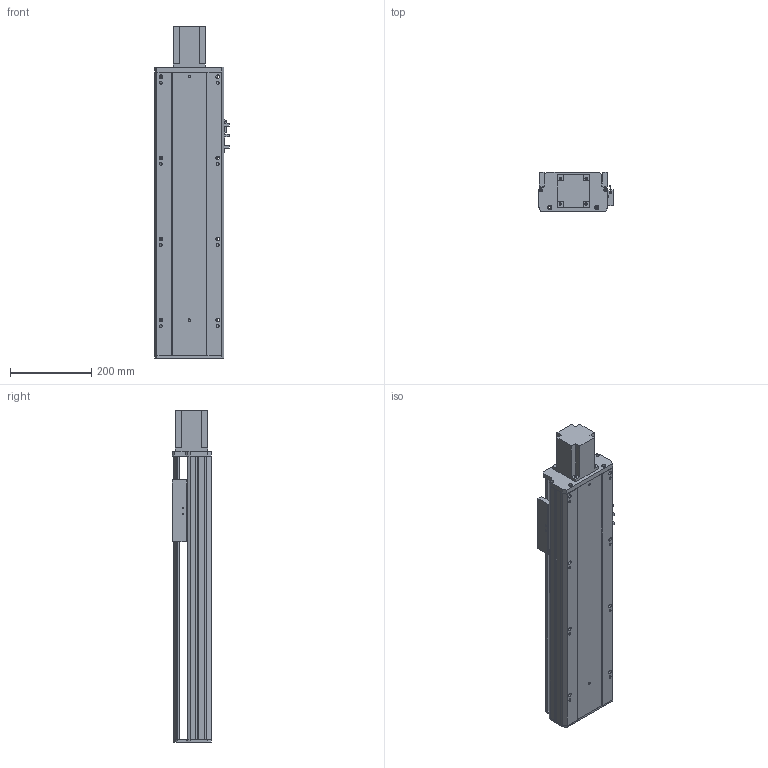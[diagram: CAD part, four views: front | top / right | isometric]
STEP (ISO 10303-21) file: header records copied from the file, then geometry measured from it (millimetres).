
FILE_DESCRIPTION (( 'STEP AP203' ), '1' );
FILE_NAME ('Y170-D10-S450-BD-P750W.STEP', '2020-01-22T03:57:42', ( '微软用户' ), ( '微软中国' ), 'SwSTEP 2.0', 'SolidWorks 2017', '' );
FILE_SCHEMA (( 'CONFIG_CONTROL_DESIGN' ));
Length unit declared in the file: millimetre
Products named in the file (10): Y170-陔遴奻裔-BD; Y170--雄赽釱-梓--; YD-Y100-135-新外置传感挡片(通用）; Y170-D10-S450-BD-P750W; Y100-135俋离換覜ん; 170--掛极-BD; Y170-萇儂楊擘啣--; 135-盓傅釱-FK15; 侂狟750W; Y170耜裔--準---
Assembly tree (11 placements, depth 2):
  Y170-D10-S450-BD-P750W
    YD-Y100-135-新外置传感挡片(通用）
    Y100-135俋离換覜ん  x3
    170--掛极-BD
    Y170-萇儂楊擘啣--
    135-盓傅釱-FK15
    侂狟750W
    Y170耜裔--準---
    Y170-陔遴奻裔-BD
    Y170--雄赽釱-梓--
Bounding box: 183.5 x 97 x 818.5 mm (x, y, z)
Volume: 3805649.5 mm3; surface area: 1205575.6 mm2
Topology: 11 solids, 11 shells, 792 faces, 2211 edges, 1464 vertices
Faces by surface type: cylinder 402, plane 388, torus 2
Entity records: 25311 total; most frequent: CARTESIAN_POINT 4387, DIRECTION 4265, ORIENTED_EDGE 4086, EDGE_CURVE 2043, AXIS2_PLACEMENT_3D 1526, VERTEX_POINT 1352, LINE 1213, VECTOR 1213
